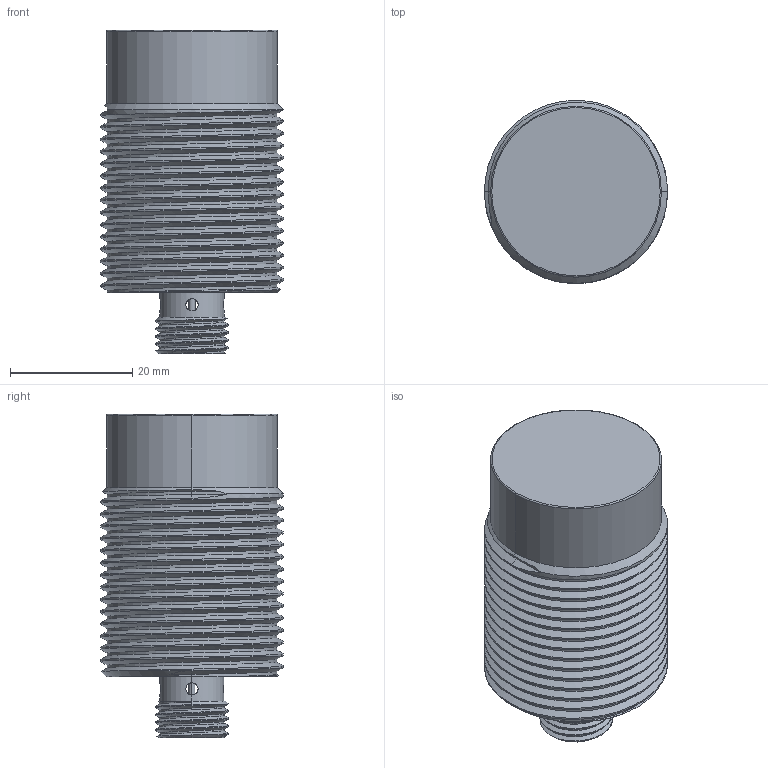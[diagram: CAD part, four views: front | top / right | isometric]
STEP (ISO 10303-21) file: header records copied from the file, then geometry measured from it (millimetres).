
FILE_DESCRIPTION (( 'STEP AP214' ), '1' );
FILE_NAME ('1.BIS6N26.STEP', '2024-11-12T09:24:43', ( '' ), ( '' ), 'SwSTEP 2.0', 'SolidWorks 2022', '' );
FILE_SCHEMA (( 'AUTOMOTIVE_DESIGN' ));
Length unit declared in the file: millimetre
Products named in the file (1): 1.BIS6N26
Bounding box: 30 x 29.98 x 53 mm (x, y, z)
Volume: 28015.7 mm3; surface area: 7664.3 mm2
Topology: 1 solids, 1 shells, 101 faces, 277 edges, 173 vertices
Faces by surface type: cylinder 63, plane 14, sphere 8, cone 8, bspline 6, torus 2
Entity records: 7970 total; most frequent: CARTESIAN_POINT 5695, ORIENTED_EDGE 522, DIRECTION 390, EDGE_CURVE 261, VERTEX_POINT 165, AXIS2_PLACEMENT_3D 152, EDGE_LOOP 112, FACE_OUTER_BOUND 101
